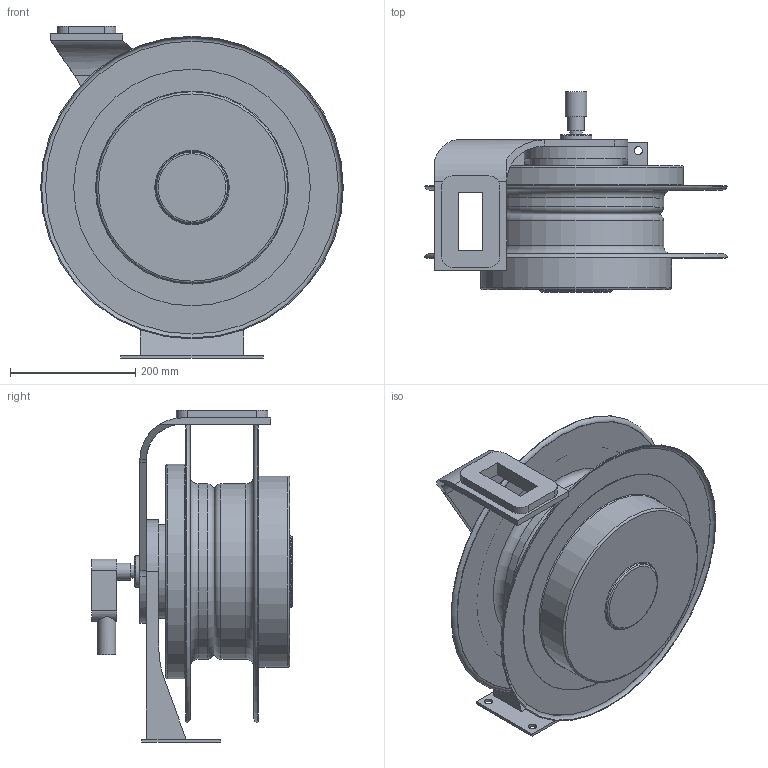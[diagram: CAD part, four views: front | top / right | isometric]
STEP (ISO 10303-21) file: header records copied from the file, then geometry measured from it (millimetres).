
FILE_DESCRIPTION( ( 'Unknown' ), '1' );
FILE_NAME( 'H:/RE File/RE 12696 100FT CORD REEL/STAGE GATE/MARKETING DATA/70000 Cord Reel 3-D .stp', 'Unknown', ( 'Unknown' ), ( 'Unknown' ), 'PSStep 10.1', 'Unknown', ' ' );
FILE_SCHEMA( ( 'AUTOMOTIVE_DESIGN { 1 0 10303 214 1 1 1 1 }' ) );
Length unit declared in the file: millimetre
Products named in the file (1): 1
Bounding box: 482.6 x 320.31 x 529.34 mm (x, y, z)
Volume: 13650366.4 mm3; surface area: 1306474.6 mm2
Topology: 1 solids, 3 shells, 137 faces, 313 edges, 202 vertices
Faces by surface type: plane 73, cylinder 34, torus 18, cone 10, extrusion 2
Full cylindrical faces by diameter (mm): 13.106 x4, 17.78 x1, 18.923 x1, 26.987 x1, 28.575 x1, 31.75 x1, 50.8 x1, 149.809 x1, 276.362 x1, 279.4 x2, 304.663 x1, 342.153 x1, 377.215 x1, 377.226 x1
Entity records: 4902 total; most frequent: CARTESIAN_POINT 800, DIRECTION 640, ORIENTED_EDGE 522, EDGE_CURVE 261, AXIS2_PLACEMENT_3D 244, EDGE_LOOP 215, VERTEX_POINT 196, FACE_OUTER_BOUND 173
